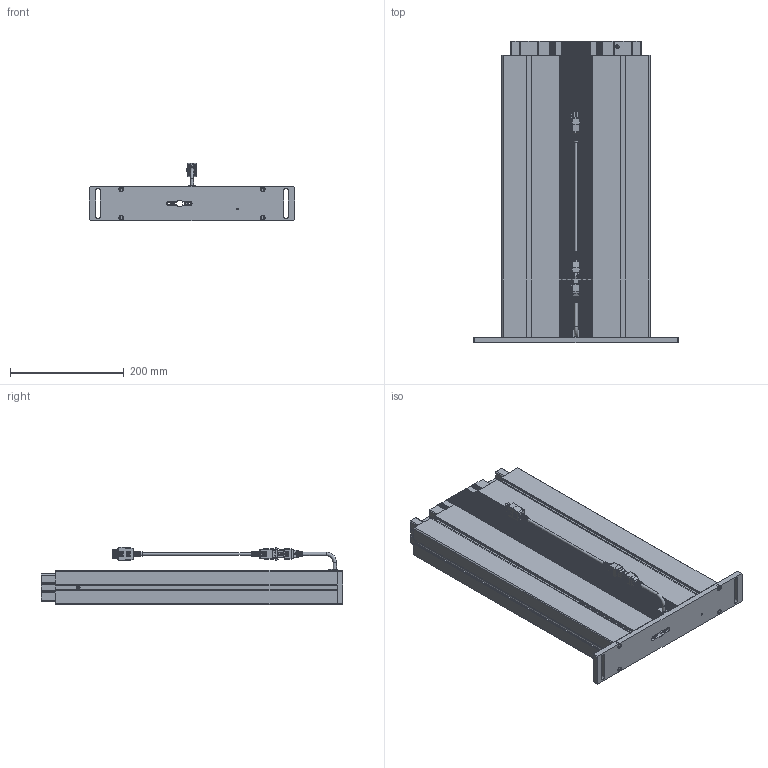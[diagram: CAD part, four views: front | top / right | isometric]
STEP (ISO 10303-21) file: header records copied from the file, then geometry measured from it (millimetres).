
FILE_DESCRIPTION(/* description */ ('Unknown'),/* implementation_level */ '2;1');
FILE_NAME(/* name */ '910.00103_00-Eingefahren',/* time_stamp */ '2022-02-02T17:55:23+01:00',/* author */ ('Unknown'),/* organization */ ('Unknown'),/* preprocessor_version */ 'ST-DEVELOPER v18.1',/* originating_system */ 'Solid Edge',/* authorisation */ 'Unknown');
FILE_SCHEMA (('AUTOMOTIVE_DESIGN {1 0 10303 214 3 1 1}'));
Products named in the file (12): 910.00103; 126.00137; 119.00566; 119.00565; 142.00166; 124.00201_oa_0; 142.00241; 110.00113_oa_1; 115.00200_oa_2; 124.00151; Kabel Motor Sx; 142.00341
Assembly tree (16 placements, depth 2):
  910.00103
    126.00137
    119.00566
    119.00565
    142.00166  x4
    124.00201_oa_0
    142.00241  x2
    110.00113_oa_1
    115.00200_oa_2
    124.00151
    Kabel Motor Sx
    142.00341  x2
Bounding box: 360 x 530 x 100.67 mm (x, y, z)
Volume: 2812640.8 mm3; surface area: 1660276.7 mm2
Topology: 13 solids, 13 shells, 2673 faces, 7472 edges, 4939 vertices
Faces by surface type: plane 1589, cylinder 891, torus 103, bspline 72, cone 12, sphere 6
Full cylindrical faces by diameter (mm): 1.5 x6, 1.82 x6, 2.459 x1, 2.7 x6, 3.242 x4, 3.4 x1, 4 x4, 5 x5, 5.5 x4, 6 x3, 7 x4, 8.5 x4, 8.7 x4, 30 x2
Entity records: 105169 total; most frequent: CARTESIAN_POINT 19011, ORIENTED_EDGE 14462, DIRECTION 13932, EDGE_CURVE 7231, VERTEX_POINT 4823, LINE 4672, VECTOR 4672, AXIS2_PLACEMENT_3D 4630
